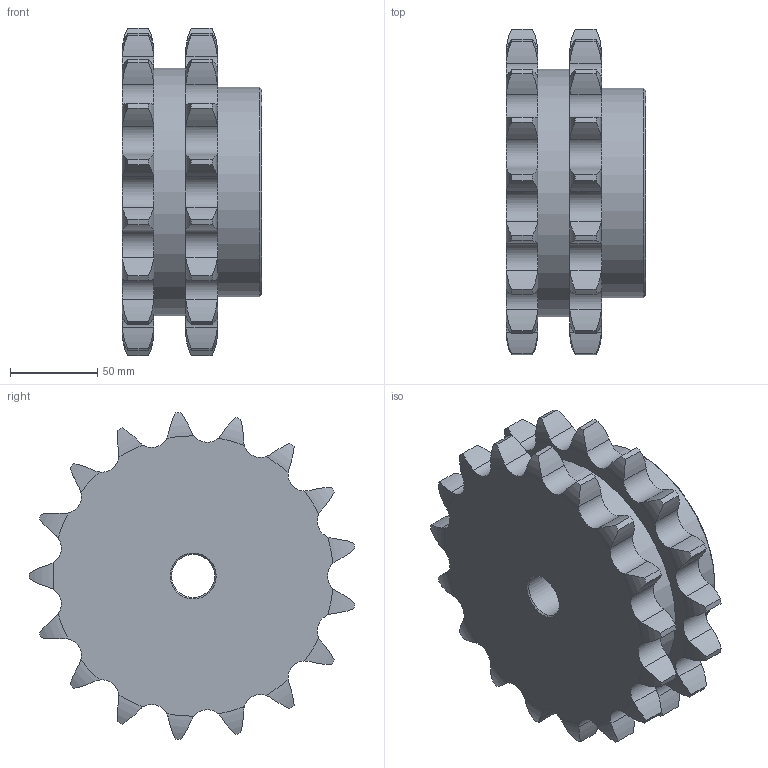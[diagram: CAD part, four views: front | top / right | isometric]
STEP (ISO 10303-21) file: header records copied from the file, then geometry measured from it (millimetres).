
FILE_DESCRIPTION(/* description */ (''),/* implementation_level */ '2;1');
FILE_NAME(/* name */ '10231017.stp',/* time_stamp */ '2023-06-08T09:00:19+02:00',/* author */ ('Paolo.Silvestro'),/* organization */ (''),/* preprocessor_version */ 'ST-DEVELOPER v19.2',/* originating_system */ 'Autodesk Inventor 2023',/* authorisation */ '');
FILE_SCHEMA (('CONFIG_CONTROL_DESIGN'));
Length unit declared in the file: millimetre
Products named in the file (1): 10231017
Bounding box: 80 x 186.42 x 187.21 mm (x, y, z)
Volume: 1326865.4 mm3; surface area: 106793 mm2
Topology: 1 solids, 1 shells, 215 faces, 630 edges, 420 vertices
Faces by surface type: cylinder 139, torus 68, plane 5, cone 3
Full cylindrical faces by diameter (mm): 24.7 x1, 120 x1, 141.74 x1
Entity records: 8015 total; most frequent: CARTESIAN_POINT 2578, ORIENTED_EDGE 1260, DIRECTION 1006, EDGE_CURVE 630, AXIS2_PLACEMENT_3D 432, VERTEX_POINT 420, B_SPLINE_CURVE_WITH_KNOTS 272, EDGE_LOOP 220
